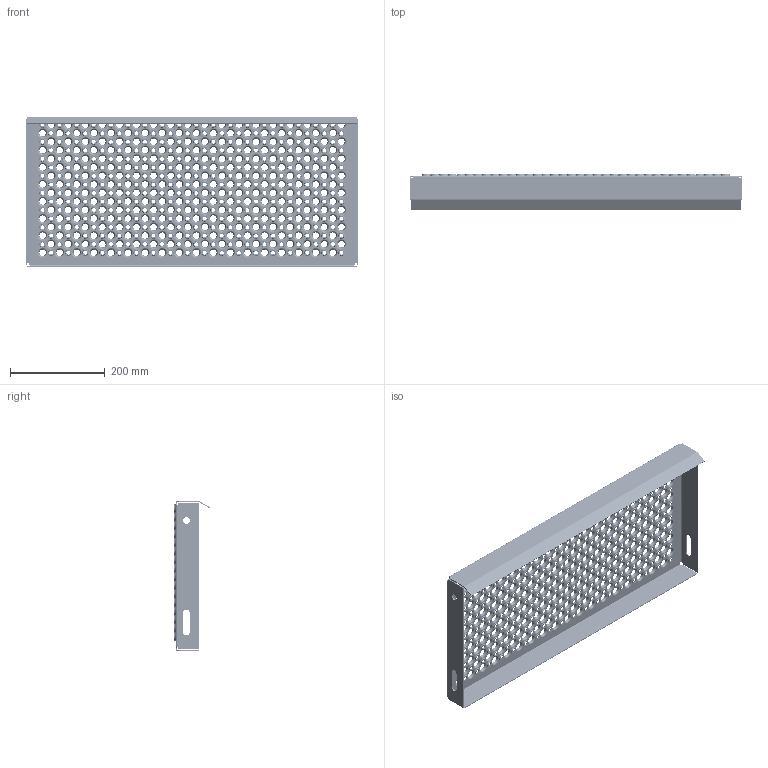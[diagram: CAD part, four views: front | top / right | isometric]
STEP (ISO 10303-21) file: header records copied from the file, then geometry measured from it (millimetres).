
FILE_DESCRIPTION (( 'STEP AP203' ), '1' );
FILE_NAME ('80243107G_Lejdertrin_315x700x45_mm_.STEP', '2015-06-09T05:56:42', ( '' ), ( '' ), 'SwSTEP 2.0', 'SolidWorks 2013', '' );
FILE_SCHEMA (( 'CONFIG_CONTROL_DESIGN' ));
Length unit declared in the file: millimetre
Products named in the file (1): 80243107G_Lejdertrin_315x700x45_mm_
Bounding box: 700 x 75.67 x 315 mm (x, y, z)
Volume: 618613.8 mm3; surface area: 666020.6 mm2
Topology: 1 solids, 1 shells, 2956 faces, 8246 edges, 5292 vertices
Faces by surface type: cone 1728, torus 1152, cylinder 36, plane 32, bspline 8
Full cylindrical faces by diameter (mm): 14 x2
Entity records: 68321 total; most frequent: DIRECTION 13014, CARTESIAN_POINT 10657, ORIENTED_EDGE 7272, EDGE_LOOP 6998, AXIS2_PLACEMENT_3D 6461, FACE_OUTER_BOUND 4110, EDGE_CURVE 3636, VERTEX_POINT 3564
